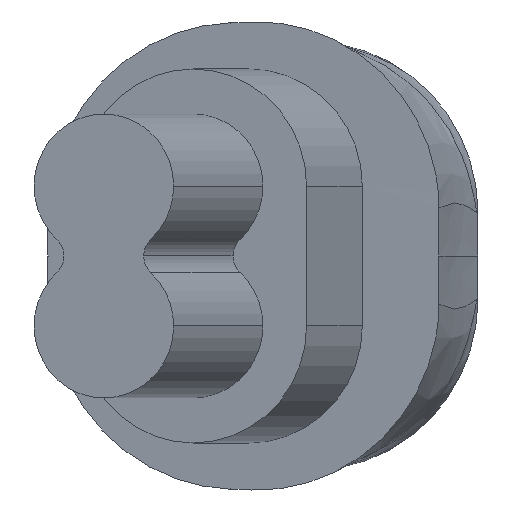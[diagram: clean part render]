
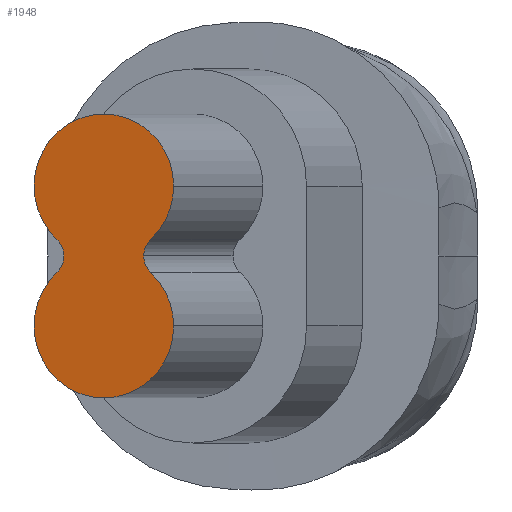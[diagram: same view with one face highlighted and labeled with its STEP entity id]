
A CAD part, left-side view. The second image highlights one B-rep face of the part: STEP entity #1948.
In plain terms, the highlighted planar face has unit normal (-0.969, 0.248, 0).
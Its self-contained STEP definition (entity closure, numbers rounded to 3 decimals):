
#860 = VERTEX_POINT ( 'NONE', #923 ) ;
#863 = VERTEX_POINT ( 'NONE', #944 ) ;
#864 = VERTEX_POINT ( 'NONE', #945 ) ;
#887 = VERTEX_POINT ( 'NONE', #1015 ) ;
#891 = VERTEX_POINT ( 'NONE', #1006 ) ;
#892 = VERTEX_POINT ( 'NONE', #1024 ) ;
#898 = VERTEX_POINT ( 'NONE', #1025 ) ;
#904 = VERTEX_POINT ( 'NONE', #989 ) ;
#923 = CARTESIAN_POINT ( 'NONE',  ( -86.8, 12.307, 0. ) ) ;
#940 = VERTEX_POINT ( 'NONE', #1090 ) ;
#944 = CARTESIAN_POINT ( 'NONE',  ( -86.84, 12.149, 0.37 ) ) ;
#945 = CARTESIAN_POINT ( 'NONE',  ( -86.177, 14.743, 1.552 ) ) ;
#989 = CARTESIAN_POINT ( 'NONE',  ( -86.97, 11.643, 1.552 ) ) ;
#1006 = CARTESIAN_POINT ( 'NONE',  ( -86.307, 14.237, 0.37 ) ) ;
#1015 = CARTESIAN_POINT ( 'NONE',  ( -86.177, 14.743, -1.552 ) ) ;
#1024 = CARTESIAN_POINT ( 'NONE',  ( -86.97, 11.643, -1.552 ) ) ;
#1025 = CARTESIAN_POINT ( 'NONE',  ( -86.84, 12.149, -0.37 ) ) ;
#1090 = CARTESIAN_POINT ( 'NONE',  ( -86.307, 14.237, -0.37 ) ) ;
#1351 = FACE_OUTER_BOUND ( 'NONE', #1510, .T. ) ;
#1363 = CIRCLE ( 'NONE', #2073, 1.6 ) ;
#1369 = CIRCLE ( 'NONE', #2076, 0.5 ) ;
#1372 = CIRCLE ( 'NONE', #2083, 1.6 ) ;
#1396 = CIRCLE ( 'NONE', #2074, 0.5 ) ;
#1510 = EDGE_LOOP ( 'NONE', ( #1563, #1588, #1538, #1564, #1566, #1593, #1660, #1552, #1611 ) ) ;
#1538 = ORIENTED_EDGE ( 'NONE', *, *, #2185, .T. ) ;
#1552 = ORIENTED_EDGE ( 'NONE', *, *, #2249, .T. ) ;
#1563 = ORIENTED_EDGE ( 'NONE', *, *, #2038, .T. ) ;
#1564 = ORIENTED_EDGE ( 'NONE', *, *, #2180, .T. ) ;
#1566 = ORIENTED_EDGE ( 'NONE', *, *, #2022, .T. ) ;
#1588 = ORIENTED_EDGE ( 'NONE', *, *, #2020, .T. ) ;
#1593 = ORIENTED_EDGE ( 'NONE', *, *, #2189, .T. ) ;
#1611 = ORIENTED_EDGE ( 'NONE', *, *, #2252, .T. ) ;
#1660 = ORIENTED_EDGE ( 'NONE', *, *, #2044, .T. ) ;
#1785 = CARTESIAN_POINT ( 'NONE',  ( -86.223, 14.564, 0. ) ) ;
#1787 = DIRECTION ( 'NONE',  ( -0.969, 0.248, 0. ) ) ;
#1791 = DIRECTION ( 'NONE',  ( 0.248, 0.969, 0. ) ) ;
#1801 = CARTESIAN_POINT ( 'NONE',  ( -86.573, 13.193, 1.552 ) ) ;
#1805 = DIRECTION ( 'NONE',  ( 0.248, 0.969, 0. ) ) ;
#1808 = DIRECTION ( 'NONE',  ( 0.969, -0.248, 0. ) ) ;
#1870 = DIRECTION ( 'NONE',  ( 0.248, 0.969, 0. ) ) ;
#1871 = CARTESIAN_POINT ( 'NONE',  ( -86.924, 11.823, 0. ) ) ;
#1872 = DIRECTION ( 'NONE',  ( 0.969, -0.248, 0. ) ) ;
#1874 = CARTESIAN_POINT ( 'NONE',  ( -86.573, 13.193, -1.552 ) ) ;
#1875 = DIRECTION ( 'NONE',  ( -0.969, 0.248, 0. ) ) ;
#1884 = DIRECTION ( 'NONE',  ( 0.248, 0.969, 0. ) ) ;
#1948 = ADVANCED_FACE ( 'NONE', ( #1351 ), #2793, .F. ) ;
#2020 = EDGE_CURVE ( 'NONE', #940, #887, #1363, .T. ) ;
#2022 = EDGE_CURVE ( 'NONE', #898, #860, #1396, .T. ) ;
#2038 = EDGE_CURVE ( 'NONE', #891, #940, #1369, .T. ) ;
#2044 = EDGE_CURVE ( 'NONE', #863, #904, #1372, .T. ) ;
#2073 = AXIS2_PLACEMENT_3D ( 'NONE', #1874, #1875, #1870 ) ;
#2074 = AXIS2_PLACEMENT_3D ( 'NONE', #1871, #1872, #1884 ) ;
#2075 = AXIS2_PLACEMENT_3D ( 'NONE', #2796, #2811, #2863 ) ;
#2076 = AXIS2_PLACEMENT_3D ( 'NONE', #1785, #1808, #1805 ) ;
#2083 = AXIS2_PLACEMENT_3D ( 'NONE', #1801, #1787, #1791 ) ;
#2114 = AXIS2_PLACEMENT_3D ( 'NONE', #4566, #4592, #4570 ) ;
#2118 = AXIS2_PLACEMENT_3D ( 'NONE', #4583, #4589, #4608 ) ;
#2135 = AXIS2_PLACEMENT_3D ( 'NONE', #4596, #4597, #4598 ) ;
#2142 = AXIS2_PLACEMENT_3D ( 'NONE', #4381, #4345, #4336 ) ;
#2149 = AXIS2_PLACEMENT_3D ( 'NONE', #4340, #4342, #4348 ) ;
#2180 = EDGE_CURVE ( 'NONE', #892, #898, #4111, .T. ) ;
#2185 = EDGE_CURVE ( 'NONE', #887, #892, #4106, .T. ) ;
#2189 = EDGE_CURVE ( 'NONE', #860, #863, #4098, .T. ) ;
#2249 = EDGE_CURVE ( 'NONE', #904, #864, #4178, .T. ) ;
#2252 = EDGE_CURVE ( 'NONE', #864, #891, #4156, .T. ) ;
#2793 = PLANE ( 'NONE',  #2075 ) ;
#2796 = CARTESIAN_POINT ( 'NONE',  ( -87.665, 8.923, -5.274 ) ) ;
#2811 = DIRECTION ( 'NONE',  ( 0.969, -0.248, 0. ) ) ;
#2863 = DIRECTION ( 'NONE',  ( 0.248, 0.969, 0. ) ) ;
#4098 = CIRCLE ( 'NONE', #2135, 0.5 ) ;
#4106 = CIRCLE ( 'NONE', #2114, 1.6 ) ;
#4111 = CIRCLE ( 'NONE', #2118, 1.6 ) ;
#4156 = CIRCLE ( 'NONE', #2149, 1.6 ) ;
#4178 = CIRCLE ( 'NONE', #2142, 1.6 ) ;
#4336 = DIRECTION ( 'NONE',  ( 0.248, 0.969, 0. ) ) ;
#4340 = CARTESIAN_POINT ( 'NONE',  ( -86.573, 13.193, 1.552 ) ) ;
#4342 = DIRECTION ( 'NONE',  ( -0.969, 0.248, 0. ) ) ;
#4345 = DIRECTION ( 'NONE',  ( -0.969, 0.248, 0. ) ) ;
#4348 = DIRECTION ( 'NONE',  ( 0.248, 0.969, 0. ) ) ;
#4381 = CARTESIAN_POINT ( 'NONE',  ( -86.573, 13.193, 1.552 ) ) ;
#4566 = CARTESIAN_POINT ( 'NONE',  ( -86.573, 13.193, -1.552 ) ) ;
#4570 = DIRECTION ( 'NONE',  ( 0.248, 0.969, 0. ) ) ;
#4583 = CARTESIAN_POINT ( 'NONE',  ( -86.573, 13.193, -1.552 ) ) ;
#4589 = DIRECTION ( 'NONE',  ( -0.969, 0.248, 0. ) ) ;
#4592 = DIRECTION ( 'NONE',  ( -0.969, 0.248, 0. ) ) ;
#4596 = CARTESIAN_POINT ( 'NONE',  ( -86.924, 11.823, 0. ) ) ;
#4597 = DIRECTION ( 'NONE',  ( 0.969, -0.248, 0. ) ) ;
#4598 = DIRECTION ( 'NONE',  ( 0.248, 0.969, 0. ) ) ;
#4608 = DIRECTION ( 'NONE',  ( 0.248, 0.969, 0. ) ) ;
